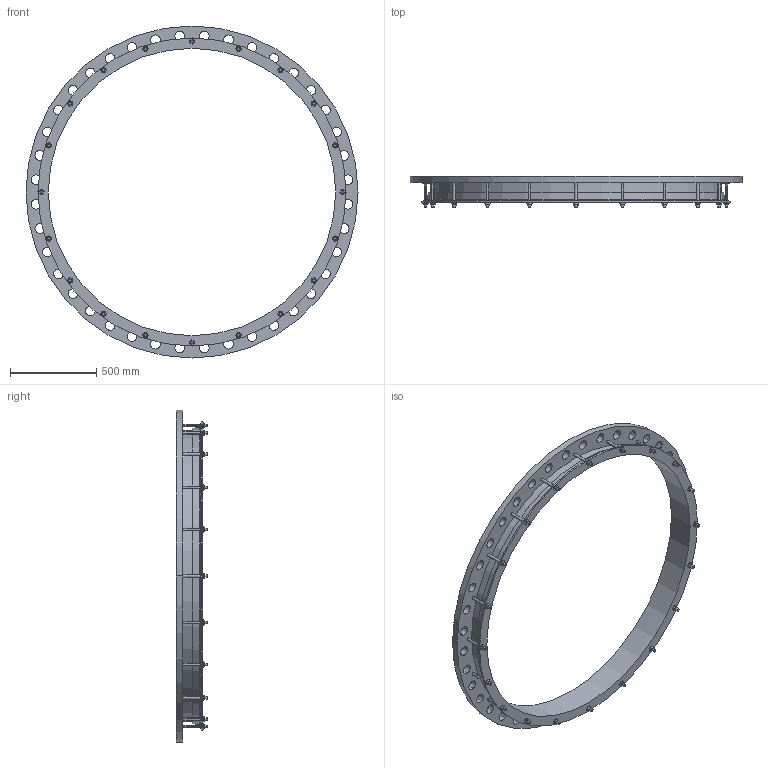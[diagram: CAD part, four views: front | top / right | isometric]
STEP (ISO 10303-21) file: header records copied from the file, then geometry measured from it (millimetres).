
FILE_DESCRIPTION((''),'2;1');
FILE_NAME('1668X1600PN16','2019-01-17T',('mfairey'),('Glynwed Pipe Systems'),'CREO PARAMETRIC BY PTC INC, 2016130','CREO PARAMETRIC BY PTC INC, 2016130','');
FILE_SCHEMA(('CONFIG_CONTROL_DESIGN'));
Length unit declared in the file: millimetre
Products named in the file (1): 1668X1600PN16
Bounding box: 1930 x 182 x 1930 mm (x, y, z)
Volume: 38349218.9 mm3; surface area: 3822490.5 mm2
Topology: 1 solids, 1 shells, 398 faces, 1058 edges, 704 vertices
Faces by surface type: cylinder 208, plane 184, cone 4, torus 2
Entity records: 14214 total; most frequent: CARTESIAN_POINT 3768, DIRECTION 2172, ORIENTED_EDGE 2116, EDGE_CURVE 1058, AXIS2_PLACEMENT_3D 800, VERTEX_POINT 704, VECTOR 572, LINE 572
